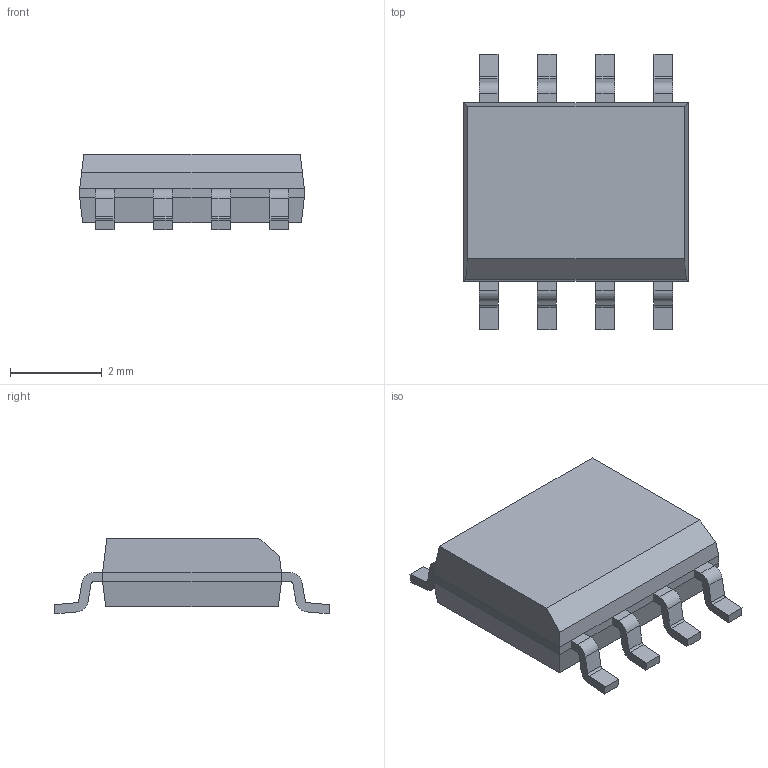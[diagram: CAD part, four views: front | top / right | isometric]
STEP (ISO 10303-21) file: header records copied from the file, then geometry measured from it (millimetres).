
FILE_DESCRIPTION(('FreeCAD Model'),'2;1');
FILE_NAME('Open CASCADE Shape Model','2025-02-22T19:50:29',( 'Krisjanis Rijnieks'),(''),'Open CASCADE STEP processor 7.7', 'FreeCAD','Unknown');
FILE_SCHEMA(('AUTOMOTIVE_DESIGN { 1 0 10303 214 1 1 1 1 }'));
Length unit declared in the file: millimetre
Products named in the file (6): A4949GLJTR-6-T; Body; Body001; Body002; Body003; Body004
Assembly tree (5 placements, depth 2):
  A4949GLJTR-6-T
    Body
    Body001
    Body002
    Body003
    Body004
Bounding box: 4.9 x 6.02 x 1.65 mm (x, y, z)
Volume: 29.6 mm3; surface area: 95 mm2
Topology: 5 solids, 5 shells, 103 faces, 271 edges, 178 vertices
Faces by surface type: plane 71, cylinder 32
Entity records: 3310 total; most frequent: CARTESIAN_POINT 558, DIRECTION 553, ORIENTED_EDGE 542, EDGE_CURVE 271, LINE 207, VECTOR 207, VERTEX_POINT 178, AXIS2_PLACEMENT_3D 173
